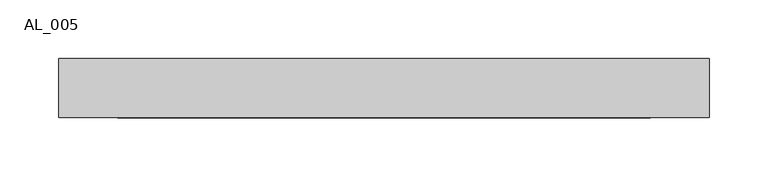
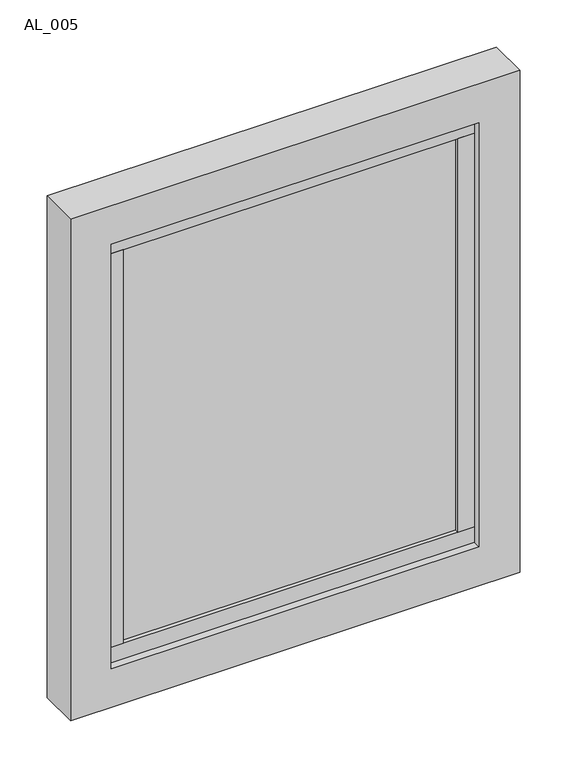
"""IFC4 building model written with IfcOpenShell, lengths in millimetres: plate geometry, TRP_CP_ARC_PF_RE : AL_005."""

from ifc_helpers import new_model, si_unit, frame, origin, place, context, project, spatial, polyline, outline, extrude, source, transform, mapped, element, save


def al_005_dea4e61d(model_context):
    return source(origin(), model_context, "Body", "SweptSolid", [
        extrude(outline(polyline([(205.5483539, -10.0), (-205.5483539, -10.0), (-205.5483539, 10.0), (205.5483539, 10.0), (205.5483539, -10.0)])), frame((0.0, 0.0, 70.0), z_axis=(0.0, 0.0, 1.0), x_axis=(1.0, 0.0, 0.0)), (0.0, 0.0, 1.0), 509.970898),
        extrude(outline(polyline([(225.5483539, -15.0), (205.5483539, -15.0), (205.5483539, 15.0), (225.5483539, 15.0), (225.5483539, -15.0)])), frame((0.0, 0.0, 70.0), z_axis=(0.0, 0.0, 1.0), x_axis=(1.0, 0.0, 0.0)), (0.0, 0.0, 1.0), 509.970898),
        extrude(outline(polyline([(-205.5483539, -15.0), (-225.5483539, -15.0), (-225.5483539, 15.0), (-205.5483539, 15.0), (-205.5483539, -15.0)])), frame((0.0, 0.0, 70.0), z_axis=(0.0, 0.0, 1.0), x_axis=(1.0, 0.0, 0.0)), (0.0, 0.0, 1.0), 509.970898),
        extrude(outline(polyline([(225.5483539, -15.0), (-225.5483539, -15.0), (-225.5483539, 15.0), (225.5483539, 15.0), (225.5483539, -15.0)])), frame((0.0, 0.0, 50.0), z_axis=(0.0, 0.0, 1.0), x_axis=(1.0, 0.0, 0.0)), (0.0, 0.0, 1.0), 20.0),
        extrude(outline(polyline([(225.5483539, -15.0), (-225.5483539, -15.0), (-225.5483539, 15.0), (225.5483539, 15.0), (225.5483539, -15.0)])), frame((0.0, 0.0, 579.970898), z_axis=(0.0, 0.0, 1.0), x_axis=(1.0, 0.0, 0.0)), (0.0, 0.0, 1.0), 20.0),
        extrude(outline(polyline([(649.970898, 275.5483539), (649.970898, -275.5483539), (0.0, -275.5483539), (0.0, 275.5483539), (649.970898, 275.5483539)]), holes=[polyline([(50.0, 225.5483539), (50.0, -225.5483539), (599.970898, -225.5483539), (599.970898, 225.5483539), (50.0, 225.5483539)])]), frame((0.0, -25.0, 0.0), z_axis=(0.0, 1.0, 0.0), x_axis=(0.0, 0.0, 1.0)), (0.0, 0.0, 1.0), 50.0),
    ])


if __name__ == "__main__":
    model = new_model("IFC4")
    model_context = context("Model", 3, world=origin())
    ifc_project = project(units=[si_unit("LENGTHUNIT", "METRE", prefix="MILLI")], contexts=[model_context])
    site = spatial("IfcSite", under=ifc_project)
    building = spatial("IfcBuilding", under=site)
    placement = place(None, origin())
    al_005_shape = al_005_dea4e61d(model_context)
    element("IfcPlate", 1, ObjectType="TRP_CP_ARC_PF_RE : AL_005", at=placement, inside=building, context=model_context, shape_type="MappedRepresentation", body=[
        mapped(al_005_shape, transform((0.0, 0.0, 0.0), x_axis=(1.0, 0.0, 0.0), y_axis=(0.0, 1.0, 0.0), z_axis=(0.0, 0.0, 1.0))),
    ])
    save(model, "model.ifc")
